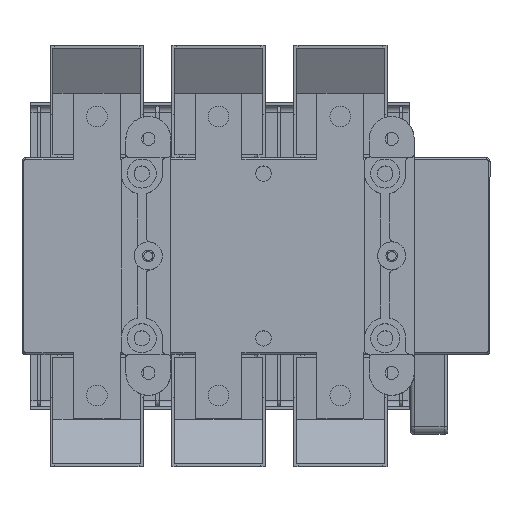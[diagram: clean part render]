
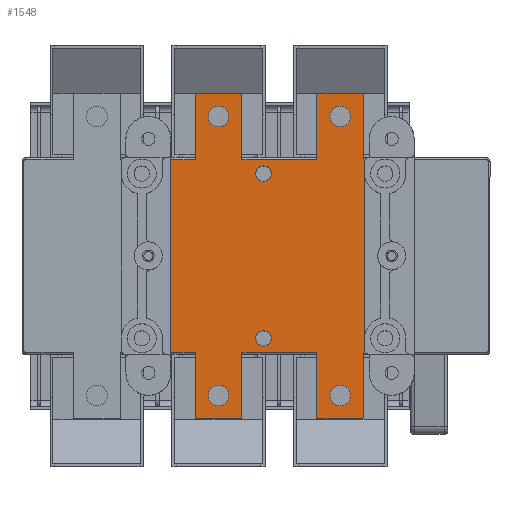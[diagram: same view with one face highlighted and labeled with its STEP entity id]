
A CAD part, top view. The second image highlights one B-rep face of the part: STEP entity #1548.
In plain terms, the highlighted planar face has unit normal (0, 0, 1).
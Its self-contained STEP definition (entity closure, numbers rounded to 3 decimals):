
#1548=ADVANCED_FACE('',(#8562,#8563,#8564,#8565,#8566,#8567,#8568),#2734,
 .F.);
#2734=PLANE('',#23118);
#3670=LINE('',#31845,#6177);
#3671=LINE('',#31848,#6178);
#3672=LINE('',#31850,#6179);
#3673=LINE('',#31852,#6180);
#3674=LINE('',#31854,#6181);
#3675=LINE('',#31856,#6182);
#3676=LINE('',#31858,#6183);
#3677=LINE('',#31860,#6184);
#3678=LINE('',#31862,#6185);
#3679=LINE('',#31864,#6186);
#3680=LINE('',#31868,#6187);
#3681=LINE('',#31872,#6188);
#3682=LINE('',#31874,#6189);
#3683=LINE('',#31876,#6190);
#3684=LINE('',#31878,#6191);
#3685=LINE('',#31880,#6192);
#3686=LINE('',#31882,#6193);
#3687=LINE('',#31884,#6194);
#3688=LINE('',#31886,#6195);
#3689=LINE('',#31888,#6196);
#6177=VECTOR('',#25267,1.);
#6178=VECTOR('',#25268,1.);
#6179=VECTOR('',#25269,1.);
#6180=VECTOR('',#25270,1.);
#6181=VECTOR('',#25271,1.);
#6182=VECTOR('',#25272,1.);
#6183=VECTOR('',#25273,1.);
#6184=VECTOR('',#25274,1.);
#6185=VECTOR('',#25275,1.);
#6186=VECTOR('',#25276,1.);
#6187=VECTOR('',#25279,1.);
#6188=VECTOR('',#25282,1.);
#6189=VECTOR('',#25283,1.);
#6190=VECTOR('',#25284,1.);
#6191=VECTOR('',#25285,1.);
#6192=VECTOR('',#25286,1.);
#6193=VECTOR('',#25287,1.);
#6194=VECTOR('',#25288,1.);
#6195=VECTOR('',#25289,1.);
#6196=VECTOR('',#25290,1.);
#8562=FACE_BOUND('',#8848,.T.);
#8563=FACE_BOUND('',#8849,.T.);
#8564=FACE_BOUND('',#8850,.T.);
#8565=FACE_BOUND('',#8851,.T.);
#8566=FACE_BOUND('',#8852,.T.);
#8567=FACE_BOUND('',#8853,.T.);
#8568=FACE_BOUND('',#8854,.T.);
#8848=EDGE_LOOP('',(#10379));
#8849=EDGE_LOOP('',(#10380));
#8850=EDGE_LOOP('',(#10381));
#8851=EDGE_LOOP('',(#10382));
#8852=EDGE_LOOP('',(#10383));
#8853=EDGE_LOOP('',(#10384));
#8854=EDGE_LOOP('',(#10385,#10386,#10387,#10388,#10389,#10390,#10391,#10392,
#10393,#10394,#10395,#10396,#10397,#10398,#10399,#10400,#10401,#10402,#10403,
#10404,#10405,#10406));
#10379=ORIENTED_EDGE('',*,*,#19145,.T.);
#10380=ORIENTED_EDGE('',*,*,#19146,.T.);
#10381=ORIENTED_EDGE('',*,*,#19147,.T.);
#10382=ORIENTED_EDGE('',*,*,#19148,.T.);
#10383=ORIENTED_EDGE('',*,*,#19149,.F.);
#10384=ORIENTED_EDGE('',*,*,#19150,.F.);
#10385=ORIENTED_EDGE('',*,*,#19151,.F.);
#10386=ORIENTED_EDGE('',*,*,#19152,.T.);
#10387=ORIENTED_EDGE('',*,*,#19153,.F.);
#10388=ORIENTED_EDGE('',*,*,#19154,.F.);
#10389=ORIENTED_EDGE('',*,*,#19155,.F.);
#10390=ORIENTED_EDGE('',*,*,#19156,.T.);
#10391=ORIENTED_EDGE('',*,*,#19157,.T.);
#10392=ORIENTED_EDGE('',*,*,#19158,.T.);
#10393=ORIENTED_EDGE('',*,*,#19159,.T.);
#10394=ORIENTED_EDGE('',*,*,#19160,.T.);
#10395=ORIENTED_EDGE('',*,*,#19161,.T.);
#10396=ORIENTED_EDGE('',*,*,#19162,.T.);
#10397=ORIENTED_EDGE('',*,*,#19163,.T.);
#10398=ORIENTED_EDGE('',*,*,#19164,.T.);
#10399=ORIENTED_EDGE('',*,*,#19165,.T.);
#10400=ORIENTED_EDGE('',*,*,#19166,.T.);
#10401=ORIENTED_EDGE('',*,*,#19167,.T.);
#10402=ORIENTED_EDGE('',*,*,#19168,.T.);
#10403=ORIENTED_EDGE('',*,*,#19169,.F.);
#10404=ORIENTED_EDGE('',*,*,#19170,.F.);
#10405=ORIENTED_EDGE('',*,*,#19171,.F.);
#10406=ORIENTED_EDGE('',*,*,#19172,.T.);
#16981=VERTEX_POINT('',#31834);
#16982=VERTEX_POINT('',#31836);
#16983=VERTEX_POINT('',#31838);
#16984=VERTEX_POINT('',#31840);
#16985=VERTEX_POINT('',#31842);
#16986=VERTEX_POINT('',#31844);
#16987=VERTEX_POINT('',#31846);
#16988=VERTEX_POINT('',#31847);
#16989=VERTEX_POINT('',#31849);
#16990=VERTEX_POINT('',#31851);
#16991=VERTEX_POINT('',#31853);
#16992=VERTEX_POINT('',#31855);
#16993=VERTEX_POINT('',#31857);
#16994=VERTEX_POINT('',#31859);
#16995=VERTEX_POINT('',#31861);
#16996=VERTEX_POINT('',#31863);
#16997=VERTEX_POINT('',#31865);
#16998=VERTEX_POINT('',#31867);
#16999=VERTEX_POINT('',#31869);
#17000=VERTEX_POINT('',#31871);
#17001=VERTEX_POINT('',#31873);
#17002=VERTEX_POINT('',#31875);
#17003=VERTEX_POINT('',#31877);
#17004=VERTEX_POINT('',#31879);
#17005=VERTEX_POINT('',#31881);
#17006=VERTEX_POINT('',#31883);
#17007=VERTEX_POINT('',#31885);
#17008=VERTEX_POINT('',#31887);
#19145=EDGE_CURVE('',#16981,#16981,#22300,.T.);
#19146=EDGE_CURVE('',#16982,#16982,#22301,.T.);
#19147=EDGE_CURVE('',#16983,#16983,#22302,.T.);
#19148=EDGE_CURVE('',#16984,#16984,#22303,.T.);
#19149=EDGE_CURVE('',#16985,#16985,#22304,.T.);
#19150=EDGE_CURVE('',#16986,#16986,#22305,.T.);
#19151=EDGE_CURVE('',#16987,#16988,#3670,.T.);
#19152=EDGE_CURVE('',#16987,#16989,#3671,.T.);
#19153=EDGE_CURVE('',#16990,#16989,#3672,.T.);
#19154=EDGE_CURVE('',#16991,#16990,#3673,.T.);
#19155=EDGE_CURVE('',#16992,#16991,#3674,.T.);
#19156=EDGE_CURVE('',#16992,#16993,#3675,.T.);
#19157=EDGE_CURVE('',#16993,#16994,#3676,.T.);
#19158=EDGE_CURVE('',#16994,#16995,#3677,.T.);
#19159=EDGE_CURVE('',#16995,#16996,#3678,.T.);
#19160=EDGE_CURVE('',#16996,#16997,#3679,.T.);
#19161=EDGE_CURVE('',#16997,#16998,#22306,.T.);
#19162=EDGE_CURVE('',#16998,#16999,#3680,.T.);
#19163=EDGE_CURVE('',#16999,#17000,#22307,.T.);
#19164=EDGE_CURVE('',#17000,#17001,#3681,.T.);
#19165=EDGE_CURVE('',#17001,#17002,#3682,.T.);
#19166=EDGE_CURVE('',#17002,#17003,#3683,.T.);
#19167=EDGE_CURVE('',#17003,#17004,#3684,.T.);
#19168=EDGE_CURVE('',#17004,#17005,#3685,.T.);
#19169=EDGE_CURVE('',#17006,#17005,#3686,.T.);
#19170=EDGE_CURVE('',#17007,#17006,#3687,.T.);
#19171=EDGE_CURVE('',#17008,#17007,#3688,.T.);
#19172=EDGE_CURVE('',#17008,#16988,#3689,.T.);
#22300=CIRCLE('',#23110,5.5);
#22301=CIRCLE('',#23111,5.5);
#22302=CIRCLE('',#23112,5.5);
#22303=CIRCLE('',#23113,5.5);
#22304=CIRCLE('',#23114,4.1);
#22305=CIRCLE('',#23115,4.1);
#22306=CIRCLE('',#23116,2.);
#22307=CIRCLE('',#23117,2.);
#23110=AXIS2_PLACEMENT_3D('',#31833,#25255,#25256);
#23111=AXIS2_PLACEMENT_3D('',#31835,#25257,#25258);
#23112=AXIS2_PLACEMENT_3D('',#31837,#25259,#25260);
#23113=AXIS2_PLACEMENT_3D('',#31839,#25261,#25262);
#23114=AXIS2_PLACEMENT_3D('',#31841,#25263,#25264);
#23115=AXIS2_PLACEMENT_3D('',#31843,#25265,#25266);
#23116=AXIS2_PLACEMENT_3D('',#31866,#25277,#25278);
#23117=AXIS2_PLACEMENT_3D('',#31870,#25280,#25281);
#23118=AXIS2_PLACEMENT_3D('',#31889,#25291,#25292);
#25255=DIRECTION('',(0.,0.,-1.));
#25256=DIRECTION('',(-1.,0.,0.));
#25257=DIRECTION('',(0.,0.,-1.));
#25258=DIRECTION('',(-1.,0.,0.));
#25259=DIRECTION('',(0.,0.,-1.));
#25260=DIRECTION('',(-1.,0.,0.));
#25261=DIRECTION('',(0.,0.,-1.));
#25262=DIRECTION('',(-1.,0.,0.));
#25263=DIRECTION('',(0.,0.,1.));
#25264=DIRECTION('',(-1.,0.,0.));
#25265=DIRECTION('',(0.,0.,1.));
#25266=DIRECTION('',(-1.,0.,0.));
#25267=DIRECTION('',(0.,1.,0.));
#25268=DIRECTION('',(1.,0.,0.));
#25269=DIRECTION('',(0.,1.,0.));
#25270=DIRECTION('',(-1.,0.,0.));
#25271=DIRECTION('',(0.,-1.,0.));
#25272=DIRECTION('',(1.,0.,0.));
#25273=DIRECTION('',(0.,-1.,0.));
#25274=DIRECTION('',(1.,0.,0.));
#25275=DIRECTION('',(0.,1.,0.));
#25276=DIRECTION('',(1.,0.,0.));
#25277=DIRECTION('',(0.,0.,-1.));
#25278=DIRECTION('',(-1.,0.,0.));
#25279=DIRECTION('',(0.,1.,0.));
#25280=DIRECTION('',(0.,0.,-1.));
#25281=DIRECTION('',(-1.,0.,0.));
#25282=DIRECTION('',(-1.,0.,0.));
#25283=DIRECTION('',(0.,1.,0.));
#25284=DIRECTION('',(-1.,0.,0.));
#25285=DIRECTION('',(0.,-1.,0.));
#25286=DIRECTION('',(-1.,0.,0.));
#25287=DIRECTION('',(0.,-1.,0.));
#25288=DIRECTION('',(1.,0.,0.));
#25289=DIRECTION('',(0.,1.,0.));
#25290=DIRECTION('',(-1.,0.,0.));
#25291=DIRECTION('',(0.,0.,-1.));
#25292=DIRECTION('',(-1.,0.,0.));
#31833=CARTESIAN_POINT('',(-27.5,74.5,0.));
#31834=CARTESIAN_POINT('',(-33.,74.5,0.));
#31835=CARTESIAN_POINT('',(-92.5,74.5,0.));
#31836=CARTESIAN_POINT('',(-98.,74.5,0.));
#31837=CARTESIAN_POINT('',(-92.5,-74.5,0.));
#31838=CARTESIAN_POINT('',(-98.,-74.5,0.));
#31839=CARTESIAN_POINT('',(-27.5,-74.5,0.));
#31840=CARTESIAN_POINT('',(-33.,-74.5,0.));
#31841=CARTESIAN_POINT('',(-68.5,44.,0.));
#31842=CARTESIAN_POINT('',(-72.6,44.,0.));
#31843=CARTESIAN_POINT('',(-68.5,-44.,0.));
#31844=CARTESIAN_POINT('',(-72.6,-44.,0.));
#31845=CARTESIAN_POINT('',(-118.,62.5,0.));
#31846=CARTESIAN_POINT('',(-118.,-51.5,0.));
#31847=CARTESIAN_POINT('',(-118.,51.5,0.));
#31848=CARTESIAN_POINT('',(-12.5,-51.5,0.));
#31849=CARTESIAN_POINT('',(-105.,-51.5,0.));
#31850=CARTESIAN_POINT('',(-105.,-87.,0.));
#31851=CARTESIAN_POINT('',(-105.,-87.,0.));
#31852=CARTESIAN_POINT('',(-80.,-87.,0.));
#31853=CARTESIAN_POINT('',(-80.,-87.,0.));
#31854=CARTESIAN_POINT('',(-80.,87.,0.));
#31855=CARTESIAN_POINT('',(-80.,-51.5,0.));
#31856=CARTESIAN_POINT('',(-12.5,-51.5,0.));
#31857=CARTESIAN_POINT('',(-40.,-51.5,0.));
#31858=CARTESIAN_POINT('',(-40.,87.,0.));
#31859=CARTESIAN_POINT('',(-40.,-87.,0.));
#31860=CARTESIAN_POINT('',(-40.,-87.,0.));
#31861=CARTESIAN_POINT('',(-15.,-87.,0.));
#31862=CARTESIAN_POINT('',(-15.,-87.,0.));
#31863=CARTESIAN_POINT('',(-15.,-51.5,0.));
#31864=CARTESIAN_POINT('',(-12.5,-51.5,0.));
#31865=CARTESIAN_POINT('',(-14.232,-51.5,0.));
#31866=CARTESIAN_POINT('',(-12.5,-50.5,0.));
#31867=CARTESIAN_POINT('',(-14.5,-50.5,0.));
#31868=CARTESIAN_POINT('',(-14.5,62.5,0.));
#31869=CARTESIAN_POINT('',(-14.5,50.5,0.));
#31870=CARTESIAN_POINT('',(-12.5,50.5,0.));
#31871=CARTESIAN_POINT('',(-14.232,51.5,0.));
#31872=CARTESIAN_POINT('',(-195.5,51.5,0.));
#31873=CARTESIAN_POINT('',(-15.,51.5,0.));
#31874=CARTESIAN_POINT('',(-15.,-87.,0.));
#31875=CARTESIAN_POINT('',(-15.,87.,0.));
#31876=CARTESIAN_POINT('',(-15.,87.,0.));
#31877=CARTESIAN_POINT('',(-40.,87.,0.));
#31878=CARTESIAN_POINT('',(-40.,87.,0.));
#31879=CARTESIAN_POINT('',(-40.,51.5,0.));
#31880=CARTESIAN_POINT('',(-195.5,51.5,0.));
#31881=CARTESIAN_POINT('',(-80.,51.5,0.));
#31882=CARTESIAN_POINT('',(-80.,87.,0.));
#31883=CARTESIAN_POINT('',(-80.,87.,0.));
#31884=CARTESIAN_POINT('',(-105.,87.,0.));
#31885=CARTESIAN_POINT('',(-105.,87.,0.));
#31886=CARTESIAN_POINT('',(-105.,-87.,0.));
#31887=CARTESIAN_POINT('',(-105.,51.5,0.));
#31888=CARTESIAN_POINT('',(-195.5,51.5,0.));
#31889=CARTESIAN_POINT('',(50.5,-50.5,0.));
